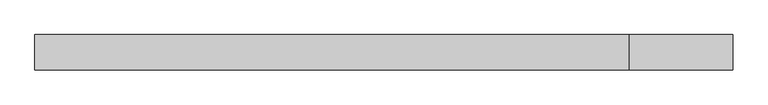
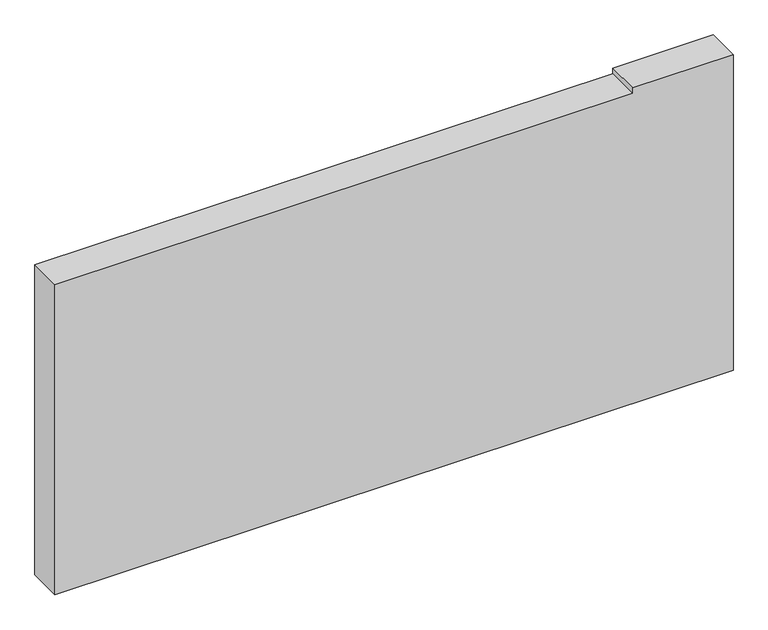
"""IFC4 building model written with IfcOpenShell, lengths in millimetres: plate geometry, Системная панель : Алюкобонд серый."""

from ifc_helpers import new_model, si_unit, frame, origin, place, context, project, spatial, polyline, outline, extrude, source, transform, mapped, element, save


def plate_2d791658(model_context):
    return source(origin(), model_context, "Body", "SweptSolid", [
        extrude(outline(polyline([(0.0, -590.0), (0.0, 590.0), (580.0, 590.0), (580.0, 415.424264), (570.0, 415.424264), (570.0, -590.0), (0.0, -590.0)])), frame((0.0, -10.5, 0.0), z_axis=(0.0, 1.0, 0.0), x_axis=(0.0, 0.0, 1.0)), (0.0, 0.0, 1.0), 60.0),
    ])


if __name__ == "__main__":
    model = new_model("IFC4")
    model_context = context("Model", 3, world=origin())
    ifc_project = project(units=[si_unit("LENGTHUNIT", "METRE", prefix="MILLI")], contexts=[model_context])
    site = spatial("IfcSite", under=ifc_project)
    building = spatial("IfcBuilding", under=site)
    placement = place(None, origin())
    plate_shape = plate_2d791658(model_context)
    element("IfcPlate", 1, ObjectType="Системная панель : Алюкобонд серый", at=placement, inside=building, context=model_context, shape_type="MappedRepresentation", body=[
        mapped(plate_shape, transform((0.0, 0.0, 0.0), x_axis=(1.0, 0.0, 0.0), y_axis=(0.0, 1.0, 0.0), z_axis=(0.0, 0.0, 1.0))),
    ])
    save(model, "model.ifc")
